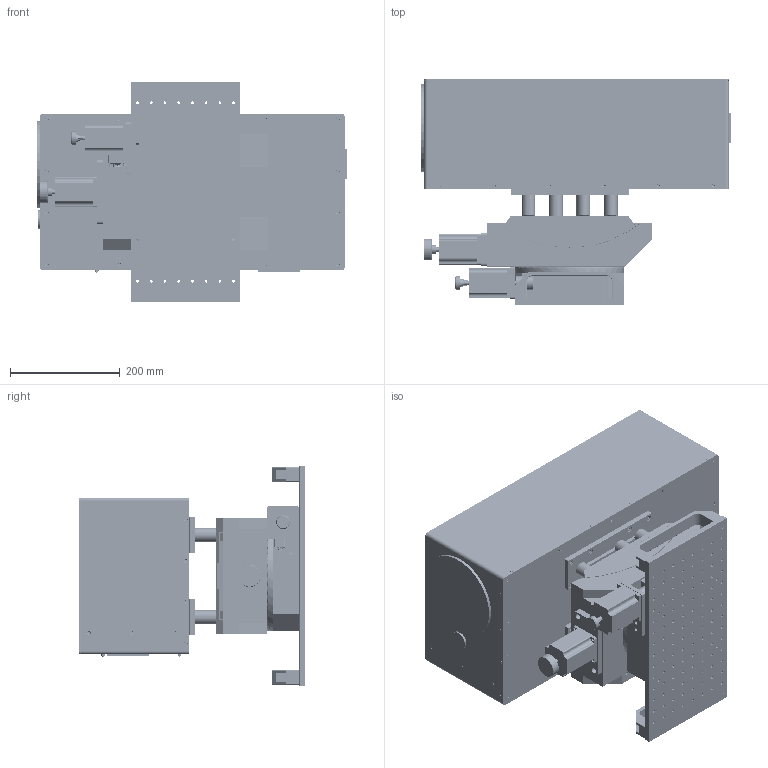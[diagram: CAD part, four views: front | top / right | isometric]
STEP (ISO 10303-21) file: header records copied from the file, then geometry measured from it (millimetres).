
FILE_DESCRIPTION (( 'STEP AP214' ), '1' );
FILE_NAME ('欶褲.STEP', '2026-10-08T08:51:11', ( '' ), ( '' ), 'SwSTEP 2.0', 'SolidWorks 2024', '' );
FILE_SCHEMA (( 'AUTOMOTIVE_DESIGN' ));
Length unit declared in the file: millimetre
Products named in the file (55): hexagon socket head cap screws gb_GB_FASTENER_SCREWS_HSHCS M6X16-N; 小支撑座下夹紧; 方形塞50; 底座.STEP; 手拧螺丝M6×10; 罩壳底板; 面包板; 圆形堵150; 望远镜头+相机; cross recessed countersunk head screws gb2_GB_CROSS_SCREWS_TYPE10 M2.5X5-3.5-H1-N; 支撑转接板; 燕尾锁紧; 铝合金把手孔距180; 3英寸22; hexagon socket head cap screws gb_GB_FASTENER_SCREWS_HSHCS M6X12-N; 57步进电机.STEP; 激光器; 上燕尾; 导轨.STEP; cross recessed countersunk head screws gb1_GB_CROSS_SCREWS_TYPE4 M3X6-4.35  H type-N; hex nuts, style 1-grades ab gb_GB_FASTENER_NUT_SNAB1 M3-N; 3英寸套筒; GB╱T 119.1-2000[圆柱销(不淬硬钢和奥氏体不锈钢)6×12]_6×12; k-3电动200m旋转台.step; 可调支撑座; 下台面.STEP; hexagon socket head cap screws gb_GB_FASTENER_SCREWS_HSHCS M8X16-N; 304不锈钢支撑柱; 支撑压板; cross recessed countersunk head screws gb2_GB_CROSS_SCREWS_TYPE10 M3X8-6.35-H1-N; GB╱T 70.1-2008[内六角圆柱头螺钉M6×20]_M6×20; 压簧0.7×7×20; 激光放大器支撑; plain washers--product grade c gb_GB_FASTENER_WASHER_SMWC 3; 可调支撑座调节板; 罩壳; hex socket set screws with flat point gb_GB_FASTENER_SCREWS_HSFP M4X10-N; 电机座.STEP; 激光放大器和散热器; cross recessed countersunk head screws gb2_GB_CROSS_SCREWS_TYPE10 M3X4-2.35-H1-N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
Assembly tree (158 placements, depth 3):
  罩壳
    上燕尾
      上燕尾
      燕尾锁紧
      望远镜头+相机
      GB╱T 119.1-2000[圆柱销(不淬硬钢和奥氏体不锈钢)6×12]_6×12  x2
      压簧0.7×7×20
      GB╱T 70.1-2008[内六角圆柱头螺钉M6×20]_M6×20  x2
      hex socket set screws with flat point gb_GB_FASTENER_SCREWS_HSFP M4X10-N
    激光器
    激光放大器和散热器
    3英寸套筒
      底座类的底座
      3英寸22
    可调支撑座
      可调支撑座
      可调支撑座调节板
      支撑压板
      手拧螺丝M6×10
      hexagon socket head cap screws gb_GB_FASTENER_SCREWS_HSHCS M6X10-N  x2
    面包板
    小支撑座
    小支撑座下夹紧
    激光放大器支撑  x2
    钣金外壳1
    钣金外壳2
    罩壳底板
    钣金上板
    圆形堵150
    圆形堵25
    方形塞50
    方形塞70
    hexagon socket head cap screws gb_GB_FASTENER_SCREWS_HSHCS M6X10-N  x9
    hexagon socket head cap screws gb_GB_FASTENER_SCREWS_HSHCS M6X20-N  x3
    hexagon socket head cap screws gb_GB_FASTENER_SCREWS_HSHCS M6X16-N  x2
    cross recessed countersunk head screws gb2_GB_CROSS_SCREWS_TYPE10 M2.5X5-3.5-H1-N  x12
    cross recessed countersunk head screws gb2_GB_CROSS_SCREWS_TYPE10 M3X8-6.35-H1-N  x20
    cross recessed countersunk head screws gb2_GB_CROSS_SCREWS_TYPE10 M3X4-2.35-H1-N  x6
    GB╱T 70.1-2008[内六角圆柱头螺钉M3×70]_M3×30  x4
    plain washers--product grade c gb_GB_FASTENER_WASHER_SMWC 3  x4
    curved single coil spring lock washers gb_GB_FASTENER_WASHER_CSLW 3  x4
    hex nuts, style 1-grades ab gb_GB_FASTENER_NUT_SNAB1 M3-N  x4
    k-3电动200m旋转台.step
    304不锈钢支撑柱  x6
    支撑转接板  x2
    托底板
    铝合金把手孔距180  x2
    hexagon socket head cap screws gb_GB_FASTENER_SCREWS_HSHCS M8X16-N  x4
    hexagon socket head cap screws gb_GB_FASTENER_SCREWS_HSHCS M6X12-N  x16
    cross recessed countersunk head screws gb1_GB_CROSS_SCREWS_TYPE4 M3X6-4.35  H type-N  x14
    电动角位台—210(1).STEP
      底座.STEP
      导轨.STEP  x4
      下台面.STEP
      电机座.STEP
      57步进电机.STEP
Bounding box: 563.5 x 411.6 x 400 mm (x, y, z)
Volume: 19403454.4 mm3; surface area: 3319341.5 mm2
Topology: 153 solids, 166 shells, 5883 faces, 14662 edges, 9151 vertices
Faces by surface type: cylinder 2670, plane 2395, cone 652, torus 106, sphere 32, bspline 28
Entity records: 122097 total; most frequent: CARTESIAN_POINT 37673, DIRECTION 17517, ORIENTED_EDGE 16371, EDGE_CURVE 8293, AXIS2_PLACEMENT_3D 6893, VERTEX_POINT 5307, EDGE_LOOP 4668, VECTOR 3731
